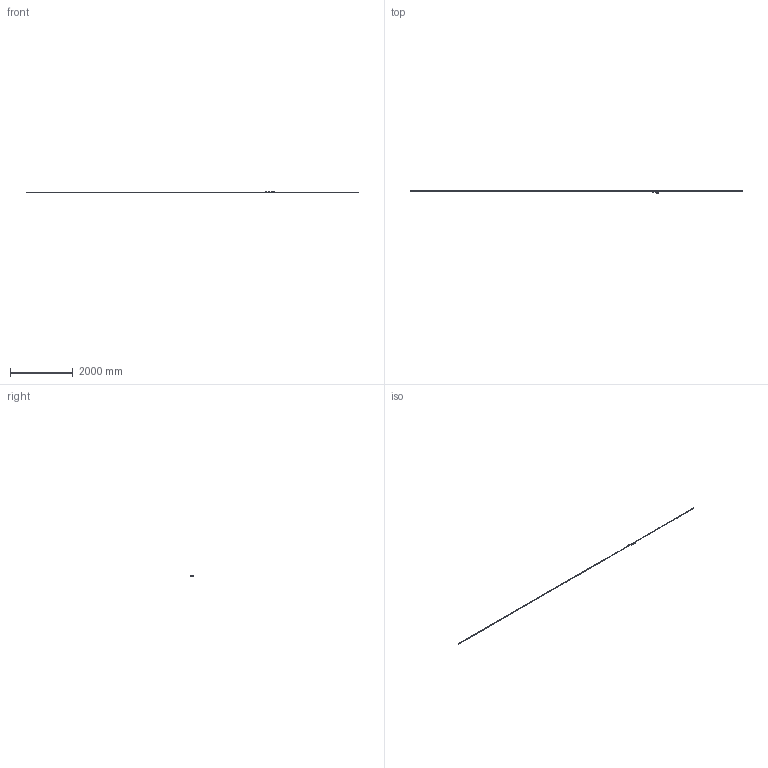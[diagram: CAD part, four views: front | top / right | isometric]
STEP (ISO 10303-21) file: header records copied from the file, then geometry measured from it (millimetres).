
FILE_DESCRIPTION(('Creo Elements/Direct Modeling STEP Export'),'2;1');
FILE_NAME('ST1300-10400D.stp','2018-03-01T16:38:12',(''),(''),'Creo Elements/Direct Modeling STEP processor for AP214 (Solid Model)','Creo Elements/Direct Modeling 18.1B 29-Sep-2012 (C) Parametric Technology GmbH','');
FILE_SCHEMA(('AUTOMOTIVE_DESIGN { 1 0 10303 214 1 1 1 1 }'));
Products named in the file (4): Connector; Scale_10400; Detector_Head; ST1300-10400D
Assembly tree (3 placements, depth 2):
  ST1300-10400D
    Detector_Head
    Scale_10400
    Connector
Bounding box: 10573 x 88.3 x 30.1 mm (x, y, z)
Volume: 894101.7 mm3; surface area: 568424 mm2
Topology: 2 solids, 10 shells, 6502 faces, 17416 edges, 11213 vertices
Faces by surface type: plane 2912, cylinder 2312, extrusion 1046, cone 139, torus 66, bspline 23, revolution 4
Entity records: 210409 total; most frequent: CARTESIAN_POINT 53575, ORIENTED_EDGE 34808, DIRECTION 27926, EDGE_CURVE 17400, VERTEX_POINT 11213, VECTOR 10364, LINE 9358, AXIS2_PLACEMENT_3D 8778
